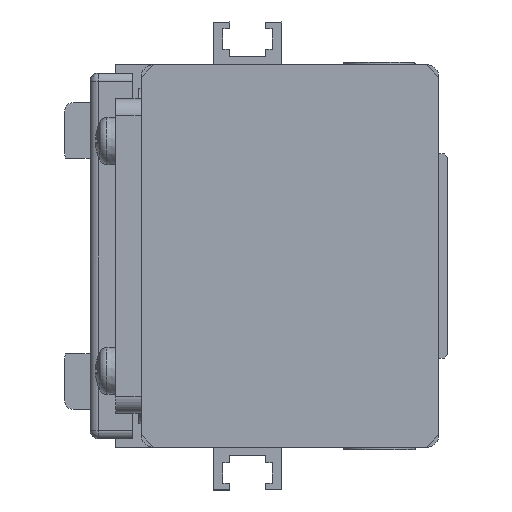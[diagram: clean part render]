
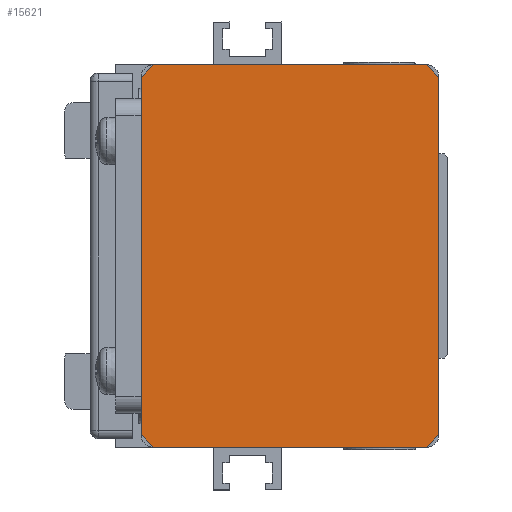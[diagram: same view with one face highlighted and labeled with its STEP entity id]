
A CAD part, left-side view. The second image highlights one B-rep face of the part: STEP entity #15621.
In plain terms, the highlighted planar face has unit normal (-1, 0, 0) as drawn and (0, 0, -1) by its records, which use the part's own axes.
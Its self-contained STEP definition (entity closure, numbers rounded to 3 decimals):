
#656=LINE('',#22571,#2022);
#658=LINE('',#22576,#2024);
#659=LINE('',#22578,#2025);
#660=LINE('',#22580,#2026);
#661=LINE('',#22581,#2027);
#662=LINE('',#22583,#2028);
#663=LINE('',#22585,#2029);
#664=LINE('',#22586,#2030);
#2022=VECTOR('',#18188,2.121);
#2024=VECTOR('',#18192,2.121);
#2025=VECTOR('',#18193,32.);
#2026=VECTOR('',#18194,2.121);
#2027=VECTOR('',#18195,42.);
#2028=VECTOR('',#18196,32.);
#2029=VECTOR('',#18197,2.121);
#2030=VECTOR('',#18198,42.);
#3674=PLANE('',#16648);
#4341=FACE_OUTER_BOUND('',#5295,.T.);
#5295=EDGE_LOOP('',(#10887,#10888,#10889,#10890,#10891,#10892,#10893,#10894));
#6843=VERTEX_POINT('',#22568);
#6844=VERTEX_POINT('',#22570);
#6845=VERTEX_POINT('',#22574);
#6846=VERTEX_POINT('',#22575);
#6847=VERTEX_POINT('',#22577);
#6848=VERTEX_POINT('',#22579);
#6849=VERTEX_POINT('',#22582);
#6850=VERTEX_POINT('',#22584);
#8456=EDGE_CURVE('',#6843,#6844,#656,.T.);
#8458=EDGE_CURVE('',#6845,#6846,#658,.T.);
#8459=EDGE_CURVE('',#6845,#6847,#659,.T.);
#8460=EDGE_CURVE('',#6848,#6847,#660,.T.);
#8461=EDGE_CURVE('',#6848,#6844,#661,.T.);
#8462=EDGE_CURVE('',#6843,#6849,#662,.T.);
#8463=EDGE_CURVE('',#6850,#6849,#663,.T.);
#8464=EDGE_CURVE('',#6850,#6846,#664,.T.);
#10887=ORIENTED_EDGE('',*,*,#8458,.F.);
#10888=ORIENTED_EDGE('',*,*,#8459,.T.);
#10889=ORIENTED_EDGE('',*,*,#8460,.F.);
#10890=ORIENTED_EDGE('',*,*,#8461,.T.);
#10891=ORIENTED_EDGE('',*,*,#8456,.F.);
#10892=ORIENTED_EDGE('',*,*,#8462,.T.);
#10893=ORIENTED_EDGE('',*,*,#8463,.F.);
#10894=ORIENTED_EDGE('',*,*,#8464,.T.);
#15621=ADVANCED_FACE('',(#4341),#3674,.F.);
#16648=AXIS2_PLACEMENT_3D('',#22573,#18190,#18191);
#18188=DIRECTION('',(-0.707,0.707,0.));
#18190=DIRECTION('center_axis',(0.,0.,1.));
#18191=DIRECTION('ref_axis',(1.,0.,0.));
#18192=DIRECTION('',(0.707,-0.707,0.));
#18193=DIRECTION('',(0.,1.,0.));
#18194=DIRECTION('',(-0.707,-0.707,0.));
#18195=DIRECTION('',(1.,0.,0.));
#18196=DIRECTION('',(0.,-1.,0.));
#18197=DIRECTION('',(0.707,0.707,0.));
#18198=DIRECTION('',(-1.,0.,0.));
#22568=CARTESIAN_POINT('',(50.,34.5,-277.));
#22570=CARTESIAN_POINT('',(48.5,36.,-277.));
#22571=CARTESIAN_POINT('',(50.,34.5,-277.));
#22573=CARTESIAN_POINT('Origin',(27.5,18.5,-277.));
#22574=CARTESIAN_POINT('',(5.,2.5,-277.));
#22575=CARTESIAN_POINT('',(6.5,1.,-277.));
#22576=CARTESIAN_POINT('',(5.,2.5,-277.));
#22577=CARTESIAN_POINT('',(5.,34.5,-277.));
#22578=CARTESIAN_POINT('',(5.,2.5,-277.));
#22579=CARTESIAN_POINT('',(6.5,36.,-277.));
#22580=CARTESIAN_POINT('',(6.5,36.,-277.));
#22581=CARTESIAN_POINT('',(6.5,36.,-277.));
#22582=CARTESIAN_POINT('',(50.,2.5,-277.));
#22583=CARTESIAN_POINT('',(50.,34.5,-277.));
#22584=CARTESIAN_POINT('',(48.5,1.,-277.));
#22585=CARTESIAN_POINT('',(48.5,1.,-277.));
#22586=CARTESIAN_POINT('',(48.5,1.,-277.));
